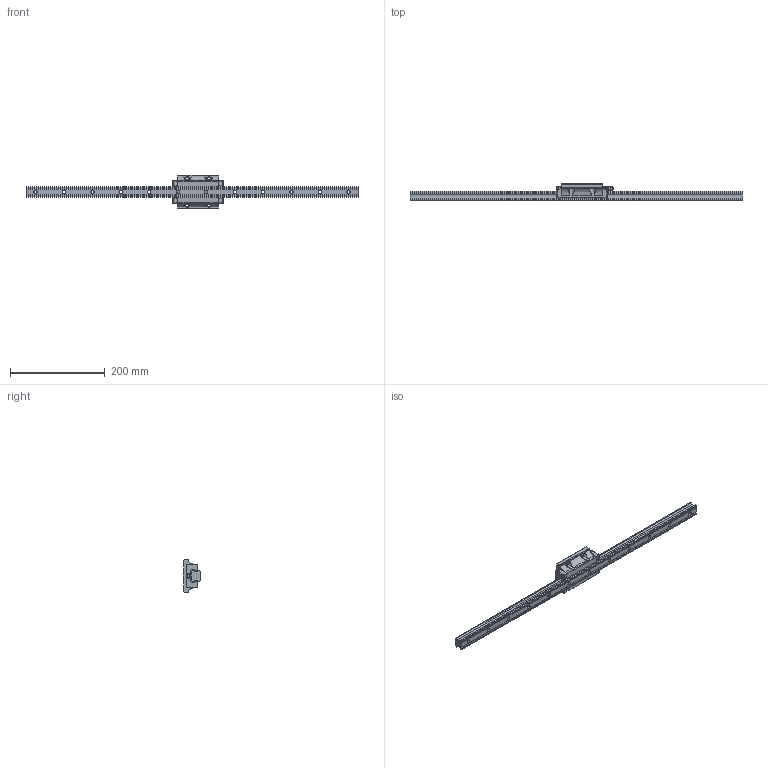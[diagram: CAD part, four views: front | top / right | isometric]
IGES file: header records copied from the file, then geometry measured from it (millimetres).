
Start section: SolidWorks IGES file using analytic representation for surfaces
Global section: file name: C:\Users\tsuch\OneDrive\デスクトップ\EG25関連修正(3D)\EGH25FL.IGS; native system: SolidWorks 2019; preprocessor: SolidWorks 2019; author: tsuch; date: 210706.144614; units: millimetre
Bounding box: 700 x 36 x 70 mm (x, y, z)
Surface area: 101359.2 mm2 (no closed solid volume)
Topology: 0 solids, 0 shells, 582 faces, 6608 edges, 6608 vertices
Faces by surface type: bspline 356, revolution 226
